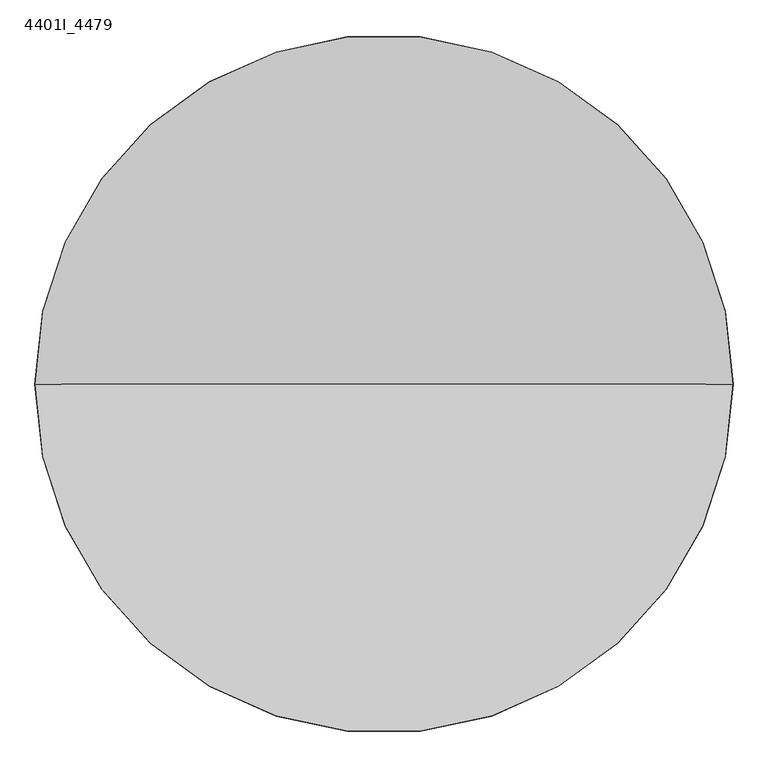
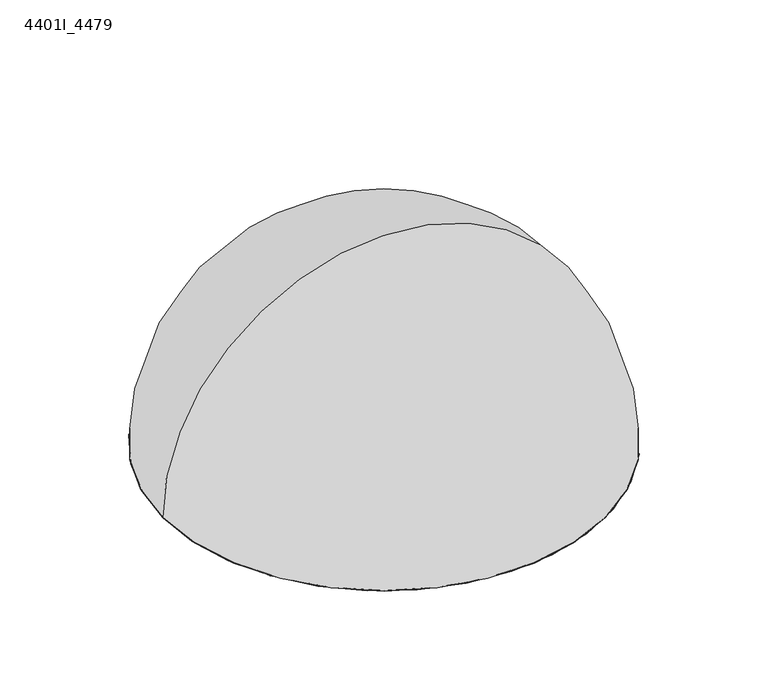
"""IFC4 building model written with IfcOpenShell, lengths in millimetres: alarm geometry, 4401I_Analog Smoke Detector : 4401I_4479."""

from ifc_helpers import new_model, si_unit, point, frame, origin, origin_with_axes, origin_2d, place, context, project, spatial, polyline, circle_curve, ellipse_curve, trimmed, segment, composite_curve, outline, extrude, source, transform, mapped, element, save
from ifc_brep_helpers import plane_surface, cylinder_surface, revolved_surface, advanced_brep


def alarm_4401i_4479_2d29e587(model_context):
    return source(origin(), model_context, "Body", "SolidModel", [
        advanced_brep(
        [(-79.7972229, 5.5486659, 14.485042), (-79.7972229, 5.5486659, 25.4), (-78.2027771, 5.5486659, 25.4), (-78.2027771, 5.5486659, 14.485042), (-79.7972229, 10.5486659, 14.485042), (-79.7972229, 10.5486659, 25.4), (-78.2027771, 10.5486659, 25.4), (-78.2027771, 10.5486659, 14.485042), (-79.7972229, 15.5486659, 14.485042), (-79.7972229, 15.5486659, 25.4), (-78.2027771, 15.5486659, 25.4), (-78.2027771, 15.5486659, 14.485042), (-84.7972229, 3.0470544, 14.485042), (-84.7972229, 3.0470544, 25.4), (-83.2027771, 3.0470544, 25.4), (-83.2027771, 3.0470544, 14.485042), (-85.4222229, 8.9861659, 14.485042), (-85.4222229, 8.9861659, 25.4), (-83.8277771, 8.9861659, 25.4), (-83.8277771, 8.9861659, 14.485042), (-88.9577568, 5.450632, 14.485042), (-88.9577568, 5.450632, 25.4), (-87.363311, 5.450632, 25.4), (-87.363311, 5.450632, 14.485042), (-83.5688125, 14.8836329, 14.485042), (-83.5688125, 14.8836329, 25.4), (-85.0671014, 14.3383003, 25.4), (-85.0671014, 14.3383003, 14.485042), (-89.6051979, 11.3985241, 14.485042), (-89.6051979, 11.3985241, 25.4), (-88.3837816, 12.4234141, 25.4), (-88.3837816, 12.4234141, 14.485042), (-92.0669282, 8.4647482, 14.485042), (-92.0669282, 8.4647482, 25.4), (-92.8641511, 7.0839177, 25.4), (-92.8641511, 7.0839177, 14.485042), (-94.450883, 1.9148862, 14.485042), (-94.450883, 1.9148862, 25.4), (-94.1740104, 3.4851087, 25.4), (-94.1740104, 3.4851087, 14.485042), (-94.1740104, -3.4851087, 14.485042), (-94.1740104, -3.4851087, 25.4), (-94.450883, -1.9148862, 25.4), (-94.450883, -1.9148862, 14.485042), (-89.5486659, 0.7972229, 14.485042), (-89.5486659, 0.7972229, 25.4), (-90.3458887, 0.0, 25.4), (-89.5486659, -0.7972229, 25.4), (-89.5486659, -0.7972229, 14.485042), (-90.3458887, 0.0, 14.485042), (-88.751443, 0.0, 14.485042), (-88.751443, 0.0, 25.4), (-88.534024, -4.5839177, 14.485042), (-88.534024, -4.5839177, 25.4), (-87.7368012, -5.9647482, 25.4), (-87.7368012, -5.9647482, 14.485042), (-83.4066742, -3.4647482, 14.485042), (-83.4066742, -3.4647482, 25.4), (-84.203897, -2.0839177, 25.4), (-84.203897, -2.0839177, 14.485042), (-73.796103, 2.0839177, 14.485042), (-73.796103, 2.0839177, 25.4), (-74.5933258, 3.4647482, 25.4), (-74.5933258, 3.4647482, 14.485042), (-73.0352518, 8.7368012, 14.485042), (-73.0352518, 8.7368012, 25.4), (-74.4160823, 9.534024, 25.4), (-74.4160823, 9.534024, 14.485042), (-72.9328986, 14.3383003, 14.485042), (-72.9328986, 14.3383003, 25.4), (-74.4311875, 14.8836329, 25.4), (-74.4311875, 14.8836329, 14.485042), (-69.6162184, 12.4234141, 14.485042), (-69.6162184, 12.4234141, 25.4), (-68.3948021, 11.3985241, 25.4), (-68.3948021, 11.3985241, 14.485042), (-65.9330718, 8.4647482, 14.485042), (-65.9330718, 8.4647482, 25.4), (-65.1358489, 7.0839177, 25.4), (-65.1358489, 7.0839177, 14.485042), (-69.465976, 4.5839177, 14.485042), (-69.465976, 4.5839177, 25.4), (-70.2631988, 5.9647482, 25.4), (-70.2631988, 5.9647482, 14.485042), (-63.549117, 1.9148862, 14.485042), (-63.549117, 1.9148862, 25.4), (-63.8259896, 3.4851087, 25.4), (-63.8259896, 3.4851087, 14.485042), (-63.8259896, -3.4851087, 14.485042), (-63.8259896, -3.4851087, 25.4), (-63.549117, -1.9148862, 25.4), (-63.549117, -1.9148862, 14.485042), (-68.4513341, 0.7972229, 14.485042), (-68.4513341, 0.7972229, 25.4), (-69.248557, 0.0, 25.4), (-68.4513341, -0.7972229, 25.4), (-68.4513341, -0.7972229, 14.485042), (-69.248557, 0.0, 14.485042), (-67.6541113, 0.0, 14.485042), (-67.6541113, 0.0, 25.4), (-74.5933258, -3.4647482, 14.485042), (-74.5933258, -3.4647482, 25.4), (-73.796103, -2.0839177, 25.4), (-73.796103, -2.0839177, 14.485042), (-78.2027771, -5.5486659, 14.485042), (-78.2027771, -5.5486659, 25.4), (-79.7972229, -5.5486659, 25.4), (-79.7972229, -5.5486659, 14.485042), (-78.2027771, -10.5486659, 14.485042), (-78.2027771, -10.5486659, 25.4), (-79.7972229, -10.5486659, 25.4), (-79.7972229, -10.5486659, 14.485042), (-74.4160823, -9.534024, 14.485042), (-74.4160823, -9.534024, 25.4), (-73.0352518, -8.7368012, 25.4), (-73.0352518, -8.7368012, 14.485042), (-70.2631988, -5.9647482, 14.485042), (-70.2631988, -5.9647482, 25.4), (-69.465976, -4.5839177, 25.4), (-69.465976, -4.5839177, 14.485042), (-65.9330718, -8.4647482, 14.485042), (-65.9330718, -8.4647482, 25.4), (-65.1358489, -7.0839177, 25.4), (-65.1358489, -7.0839177, 14.485042), (-68.3948021, -11.3985241, 14.485042), (-68.3948021, -11.3985241, 25.4), (-69.6162184, -12.4234141, 25.4), (-69.6162184, -12.4234141, 14.485042), (-72.9328986, -14.3383003, 14.485042), (-72.9328986, -14.3383003, 25.4), (-74.4311875, -14.8836329, 25.4), (-74.4311875, -14.8836329, 14.485042), (-79.7972229, -15.5486659, 14.485042), (-79.7972229, -15.5486659, 25.4), (-78.2027771, -15.5486659, 25.4), (-78.2027771, -15.5486659, 14.485042), (-83.5688125, -14.8836329, 14.485042), (-83.5688125, -14.8836329, 25.4), (-85.0671014, -14.3383003, 25.4), (-85.0671014, -14.3383003, 14.485042), (-88.3837816, -12.4234141, 14.485042), (-88.3837816, -12.4234141, 25.4), (-89.6051979, -11.3985241, 25.4), (-89.6051979, -11.3985241, 14.485042), (-83.5839177, -9.534024, 14.485042), (-83.5839177, -9.534024, 25.4), (-84.9647482, -8.7368012, 25.4), (-84.9647482, -8.7368012, 14.485042), (-92.8641511, -7.0839177, 14.485042), (-92.8641511, -7.0839177, 25.4), (-92.0669282, -8.4647482, 25.4), (-92.0669282, -8.4647482, 14.485042), (-108.6698498, 0.0, 16.3482569), (-49.3301502, 0.0, 16.3482569), (-49.0, 0.0, 15.6238085), (-109.0, 0.0, 15.6238085), (-106.6202954, 0.0, 18.1299074), (-51.3797046, 0.0, 18.1299074), (-106.2752145, 0.0, 18.8871183), (-51.7247855, 0.0, 18.8871183), (-106.2752145, 0.0, 22.8474655), (-51.7247855, 0.0, 22.8474655), (-109.0, 0.0, 14.485042), (-49.0, 0.0, 14.485042), (-79.0, 0.0, 14.485042), (-105.8495388, 0.0, 23.4500663), (-52.1504612, 0.0, 23.4500663), (-96.200061, 0.0, 25.4), (-61.799939, 0.0, 25.4), (-79.0, 0.0, 25.4)],
        [
            (0, 1),
            (1, 2, circle_curve(frame((-79.0, 5.5486659, 25.4), z_axis=(0.0, 0.0, 1.0), x_axis=(1.0, 0.0, 0.0)), 0.7972229)),
            (2, 3),
            (3, 0, circle_curve(frame((-79.0, 5.5486659, 14.485042), z_axis=(0.0, 0.0, -1.0), x_axis=(1.0, 0.0, 0.0)), 0.7972229)),
            (0, 3, circle_curve(frame((-79.0, 5.5486659, 14.485042), z_axis=(0.0, 0.0, -1.0), x_axis=(1.0, 0.0, 0.0)), 0.7972229)),
            (2, 1, circle_curve(frame((-79.0, 5.5486659, 25.4), z_axis=(0.0, 0.0, 1.0), x_axis=(1.0, 0.0, 0.0)), 0.7972229)),
            (4, 5),
            (5, 6, circle_curve(frame((-79.0, 10.5486659, 25.4), z_axis=(0.0, 0.0, 1.0), x_axis=(1.0, 0.0, 0.0)), 0.7972229)),
            (6, 7),
            (7, 4, circle_curve(frame((-79.0, 10.5486659, 14.485042), z_axis=(0.0, 0.0, -1.0), x_axis=(1.0, 0.0, 0.0)), 0.7972229)),
            (4, 7, circle_curve(frame((-79.0, 10.5486659, 14.485042), z_axis=(0.0, 0.0, -1.0), x_axis=(1.0, 0.0, 0.0)), 0.7972229)),
            (6, 5, circle_curve(frame((-79.0, 10.5486659, 25.4), z_axis=(0.0, 0.0, 1.0), x_axis=(1.0, 0.0, 0.0)), 0.7972229)),
            (8, 9),
            (9, 10, circle_curve(frame((-79.0, 15.5486659, 25.4), z_axis=(0.0, 0.0, 1.0), x_axis=(1.0, 0.0, 0.0)), 0.7972229)),
            (10, 11),
            (11, 8, circle_curve(frame((-79.0, 15.5486659, 14.485042), z_axis=(0.0, 0.0, -1.0), x_axis=(1.0, 0.0, 0.0)), 0.7972229)),
            (8, 11, circle_curve(frame((-79.0, 15.5486659, 14.485042), z_axis=(0.0, 0.0, -1.0), x_axis=(1.0, 0.0, 0.0)), 0.7972229)),
            (10, 9, circle_curve(frame((-79.0, 15.5486659, 25.4), z_axis=(0.0, 0.0, 1.0), x_axis=(1.0, 0.0, 0.0)), 0.7972229)),
            (12, 13),
            (13, 14, circle_curve(frame((-84.0, 3.0470544, 25.4), z_axis=(0.0, 0.0, 1.0), x_axis=(1.0, 0.0, 0.0)), 0.7972229)),
            (14, 15),
            (15, 12, circle_curve(frame((-84.0, 3.0470544, 14.485042), z_axis=(0.0, 0.0, -1.0), x_axis=(1.0, 0.0, 0.0)), 0.7972229)),
            (12, 15, circle_curve(frame((-84.0, 3.0470544, 14.485042), z_axis=(0.0, 0.0, -1.0), x_axis=(1.0, 0.0, 0.0)), 0.7972229)),
            (14, 13, circle_curve(frame((-84.0, 3.0470544, 25.4), z_axis=(0.0, 0.0, 1.0), x_axis=(1.0, 0.0, 0.0)), 0.7972229)),
            (16, 17),
            (17, 18, circle_curve(frame((-84.625, 8.9861659, 25.4), z_axis=(0.0, 0.0, 1.0), x_axis=(1.0, 0.0, 0.0)), 0.7972229)),
            (18, 19),
            (19, 16, circle_curve(frame((-84.625, 8.9861659, 14.485042), z_axis=(0.0, 0.0, -1.0), x_axis=(1.0, 0.0, 0.0)), 0.7972229)),
            (16, 19, circle_curve(frame((-84.625, 8.9861659, 14.485042), z_axis=(0.0, 0.0, -1.0), x_axis=(1.0, 0.0, 0.0)), 0.7972229)),
            (18, 17, circle_curve(frame((-84.625, 8.9861659, 25.4), z_axis=(0.0, 0.0, 1.0), x_axis=(1.0, 0.0, 0.0)), 0.7972229)),
            (20, 21),
            (21, 22, circle_curve(frame((-88.1605339, 5.450632, 25.4), z_axis=(0.0, 0.0, 1.0), x_axis=(1.0, 0.0, 0.0)), 0.7972229)),
            (22, 23),
            (23, 20, circle_curve(frame((-88.1605339, 5.450632, 14.485042), z_axis=(0.0, 0.0, -1.0), x_axis=(1.0, 0.0, 0.0)), 0.7972229)),
            (20, 23, circle_curve(frame((-88.1605339, 5.450632, 14.485042), z_axis=(0.0, 0.0, -1.0), x_axis=(1.0, 0.0, 0.0)), 0.7972229)),
            (22, 21, circle_curve(frame((-88.1605339, 5.450632, 25.4), z_axis=(0.0, 0.0, 1.0), x_axis=(1.0, 0.0, 0.0)), 0.7972229)),
            (24, 25),
            (25, 26, circle_curve(frame((-84.3179569, 14.6109666, 25.4), z_axis=(0.0, 0.0, 1.0), x_axis=(1.0, 0.0, 0.0)), 0.7972229)),
            (26, 27),
            (27, 24, circle_curve(frame((-84.3179569, 14.6109666, 14.485042), z_axis=(0.0, 0.0, -1.0), x_axis=(1.0, 0.0, 0.0)), 0.7972229)),
            (24, 27, circle_curve(frame((-84.3179569, 14.6109666, 14.485042), z_axis=(0.0, 0.0, -1.0), x_axis=(1.0, 0.0, 0.0)), 0.7972229)),
            (26, 25, circle_curve(frame((-84.3179569, 14.6109666, 25.4), z_axis=(0.0, 0.0, 1.0), x_axis=(1.0, 0.0, 0.0)), 0.7972229)),
            (28, 29),
            (29, 30, circle_curve(frame((-88.9944898, 11.9109691, 25.4), z_axis=(0.0, 0.0, 1.0), x_axis=(1.0, 0.0, 0.0)), 0.7972229)),
            (30, 31),
            (31, 28, circle_curve(frame((-88.9944898, 11.9109691, 14.485042), z_axis=(0.0, 0.0, -1.0), x_axis=(1.0, 0.0, 0.0)), 0.7972229)),
            (28, 31, circle_curve(frame((-88.9944898, 11.9109691, 14.485042), z_axis=(0.0, 0.0, -1.0), x_axis=(1.0, 0.0, 0.0)), 0.7972229)),
            (30, 29, circle_curve(frame((-88.9944898, 11.9109691, 25.4), z_axis=(0.0, 0.0, 1.0), x_axis=(1.0, 0.0, 0.0)), 0.7972229)),
            (32, 33),
            (33, 34, circle_curve(frame((-92.4655396, 7.7743329, 25.4), z_axis=(0.0, 0.0, 1.0), x_axis=(1.0, 0.0, 0.0)), 0.7972229)),
            (34, 35),
            (35, 32, circle_curve(frame((-92.4655396, 7.7743329, 14.485042), z_axis=(0.0, 0.0, -1.0), x_axis=(1.0, 0.0, 0.0)), 0.7972229)),
            (32, 35, circle_curve(frame((-92.4655396, 7.7743329, 14.485042), z_axis=(0.0, 0.0, -1.0), x_axis=(1.0, 0.0, 0.0)), 0.7972229)),
            (34, 33, circle_curve(frame((-92.4655396, 7.7743329, 25.4), z_axis=(0.0, 0.0, 1.0), x_axis=(1.0, 0.0, 0.0)), 0.7972229)),
            (36, 37),
            (37, 38, circle_curve(frame((-94.3124467, 2.6999975, 25.4), z_axis=(0.0, 0.0, 1.0), x_axis=(1.0, 0.0, 0.0)), 0.7972229)),
            (38, 39),
            (39, 36, circle_curve(frame((-94.3124467, 2.6999975, 14.485042), z_axis=(0.0, 0.0, -1.0), x_axis=(1.0, 0.0, 0.0)), 0.7972229)),
            (36, 39, circle_curve(frame((-94.3124467, 2.6999975, 14.485042), z_axis=(0.0, 0.0, -1.0), x_axis=(1.0, 0.0, 0.0)), 0.7972229)),
            (38, 37, circle_curve(frame((-94.3124467, 2.6999975, 25.4), z_axis=(0.0, 0.0, 1.0), x_axis=(1.0, 0.0, 0.0)), 0.7972229)),
            (40, 41),
            (41, 42, circle_curve(frame((-94.3124467, -2.6999975, 25.4), z_axis=(0.0, 0.0, 1.0), x_axis=(1.0, 0.0, 0.0)), 0.7972229)),
            (42, 43),
            (43, 40, circle_curve(frame((-94.3124467, -2.6999975, 14.485042), z_axis=(0.0, 0.0, -1.0), x_axis=(1.0, 0.0, 0.0)), 0.7972229)),
            (40, 43, circle_curve(frame((-94.3124467, -2.6999975, 14.485042), z_axis=(0.0, 0.0, -1.0), x_axis=(1.0, 0.0, 0.0)), 0.7972229)),
            (42, 41, circle_curve(frame((-94.3124467, -2.6999975, 25.4), z_axis=(0.0, 0.0, 1.0), x_axis=(1.0, 0.0, 0.0)), 0.7972229)),
            (44, 45),
            (45, 46, circle_curve(frame((-89.5486659, 0.0, 25.4), z_axis=(0.0, 0.0, 1.0), x_axis=(1.0, 0.0, 0.0)), 0.7972229)),
            (46, 47, circle_curve(frame((-89.5486659, 0.0, 25.4), z_axis=(0.0, 0.0, 1.0), x_axis=(1.0, 0.0, 0.0)), 0.7972229)),
            (47, 48),
            (48, 49, circle_curve(frame((-89.5486659, 0.0, 14.485042), z_axis=(0.0, 0.0, -1.0), x_axis=(1.0, 0.0, 0.0)), 0.7972229)),
            (49, 44, circle_curve(frame((-89.5486659, 0.0, 14.485042), z_axis=(0.0, 0.0, -1.0), x_axis=(1.0, 0.0, 0.0)), 0.7972229)),
            (44, 50, circle_curve(frame((-89.5486659, 0.0, 14.485042), z_axis=(0.0, 0.0, -1.0), x_axis=(1.0, 0.0, 0.0)), 0.7972229)),
            (50, 48, circle_curve(frame((-89.5486659, 0.0, 14.485042), z_axis=(0.0, 0.0, -1.0), x_axis=(1.0, 0.0, 0.0)), 0.7972229)),
            (47, 51, circle_curve(frame((-89.5486659, 0.0, 25.4), z_axis=(0.0, 0.0, 1.0), x_axis=(1.0, 0.0, 0.0)), 0.7972229)),
            (51, 45, circle_curve(frame((-89.5486659, 0.0, 25.4), z_axis=(0.0, 0.0, 1.0), x_axis=(1.0, 0.0, 0.0)), 0.7972229)),
            (52, 53),
            (53, 54, circle_curve(frame((-88.1354126, -5.2743329, 25.4), z_axis=(0.0, 0.0, 1.0), x_axis=(1.0, 0.0, 0.0)), 0.7972229)),
            (54, 55),
            (55, 52, circle_curve(frame((-88.1354126, -5.2743329, 14.485042), z_axis=(0.0, 0.0, -1.0), x_axis=(1.0, 0.0, 0.0)), 0.7972229)),
            (52, 55, circle_curve(frame((-88.1354126, -5.2743329, 14.485042), z_axis=(0.0, 0.0, -1.0), x_axis=(1.0, 0.0, 0.0)), 0.7972229)),
            (54, 53, circle_curve(frame((-88.1354126, -5.2743329, 25.4), z_axis=(0.0, 0.0, 1.0), x_axis=(1.0, 0.0, 0.0)), 0.7972229)),
            (56, 57),
            (57, 58, circle_curve(frame((-83.8052856, -2.7743329, 25.4), z_axis=(0.0, 0.0, 1.0), x_axis=(1.0, 0.0, 0.0)), 0.7972229)),
            (58, 59),
            (59, 56, circle_curve(frame((-83.8052856, -2.7743329, 14.485042), z_axis=(0.0, 0.0, -1.0), x_axis=(1.0, 0.0, 0.0)), 0.7972229)),
            (56, 59, circle_curve(frame((-83.8052856, -2.7743329, 14.485042), z_axis=(0.0, 0.0, -1.0), x_axis=(1.0, 0.0, 0.0)), 0.7972229)),
            (58, 57, circle_curve(frame((-83.8052856, -2.7743329, 25.4), z_axis=(0.0, 0.0, 1.0), x_axis=(1.0, 0.0, 0.0)), 0.7972229)),
            (60, 61),
            (61, 62, circle_curve(frame((-74.1947144, 2.7743329, 25.4), z_axis=(0.0, 0.0, 1.0), x_axis=(1.0, 0.0, 0.0)), 0.7972229)),
            (62, 63),
            (63, 60, circle_curve(frame((-74.1947144, 2.7743329, 14.485042), z_axis=(0.0, 0.0, -1.0), x_axis=(1.0, 0.0, 0.0)), 0.7972229)),
            (60, 63, circle_curve(frame((-74.1947144, 2.7743329, 14.485042), z_axis=(0.0, 0.0, -1.0), x_axis=(1.0, 0.0, 0.0)), 0.7972229)),
            (62, 61, circle_curve(frame((-74.1947144, 2.7743329, 25.4), z_axis=(0.0, 0.0, 1.0), x_axis=(1.0, 0.0, 0.0)), 0.7972229)),
            (64, 65),
            (65, 66, circle_curve(frame((-73.7256671, 9.1354126, 25.4), z_axis=(0.0, 0.0, 1.0), x_axis=(1.0, 0.0, 0.0)), 0.7972229)),
            (66, 67),
            (67, 64, circle_curve(frame((-73.7256671, 9.1354126, 14.485042), z_axis=(0.0, 0.0, -1.0), x_axis=(1.0, 0.0, 0.0)), 0.7972229)),
            (64, 67, circle_curve(frame((-73.7256671, 9.1354126, 14.485042), z_axis=(0.0, 0.0, -1.0), x_axis=(1.0, 0.0, 0.0)), 0.7972229)),
            (66, 65, circle_curve(frame((-73.7256671, 9.1354126, 25.4), z_axis=(0.0, 0.0, 1.0), x_axis=(1.0, 0.0, 0.0)), 0.7972229)),
            (68, 69),
            (69, 70, circle_curve(frame((-73.6820431, 14.6109666, 25.4), z_axis=(0.0, 0.0, 1.0), x_axis=(1.0, 0.0, 0.0)), 0.7972229)),
            (70, 71),
            (71, 68, circle_curve(frame((-73.6820431, 14.6109666, 14.485042), z_axis=(0.0, 0.0, -1.0), x_axis=(1.0, 0.0, 0.0)), 0.7972229)),
            (68, 71, circle_curve(frame((-73.6820431, 14.6109666, 14.485042), z_axis=(0.0, 0.0, -1.0), x_axis=(1.0, 0.0, 0.0)), 0.7972229)),
            (70, 69, circle_curve(frame((-73.6820431, 14.6109666, 25.4), z_axis=(0.0, 0.0, 1.0), x_axis=(1.0, 0.0, 0.0)), 0.7972229)),
            (72, 73),
            (73, 74, circle_curve(frame((-69.0055102, 11.9109691, 25.4), z_axis=(0.0, 0.0, 1.0), x_axis=(1.0, 0.0, 0.0)), 0.7972229)),
            (74, 75),
            (75, 72, circle_curve(frame((-69.0055102, 11.9109691, 14.485042), z_axis=(0.0, 0.0, -1.0), x_axis=(1.0, 0.0, 0.0)), 0.7972229)),
            (72, 75, circle_curve(frame((-69.0055102, 11.9109691, 14.485042), z_axis=(0.0, 0.0, -1.0), x_axis=(1.0, 0.0, 0.0)), 0.7972229)),
            (74, 73, circle_curve(frame((-69.0055102, 11.9109691, 25.4), z_axis=(0.0, 0.0, 1.0), x_axis=(1.0, 0.0, 0.0)), 0.7972229)),
            (76, 77),
            (77, 78, circle_curve(frame((-65.5344604, 7.7743329, 25.4), z_axis=(0.0, 0.0, 1.0), x_axis=(1.0, 0.0, 0.0)), 0.7972229)),
            (78, 79),
            (79, 76, circle_curve(frame((-65.5344604, 7.7743329, 14.485042), z_axis=(0.0, 0.0, -1.0), x_axis=(1.0, 0.0, 0.0)), 0.7972229)),
            (76, 79, circle_curve(frame((-65.5344604, 7.7743329, 14.485042), z_axis=(0.0, 0.0, -1.0), x_axis=(1.0, 0.0, 0.0)), 0.7972229)),
            (78, 77, circle_curve(frame((-65.5344604, 7.7743329, 25.4), z_axis=(0.0, 0.0, 1.0), x_axis=(1.0, 0.0, 0.0)), 0.7972229)),
            (80, 81),
            (81, 82, circle_curve(frame((-69.8645874, 5.2743329, 25.4), z_axis=(0.0, 0.0, 1.0), x_axis=(1.0, 0.0, 0.0)), 0.7972229)),
            (82, 83),
            (83, 80, circle_curve(frame((-69.8645874, 5.2743329, 14.485042), z_axis=(0.0, 0.0, -1.0), x_axis=(1.0, 0.0, 0.0)), 0.7972229)),
            (80, 83, circle_curve(frame((-69.8645874, 5.2743329, 14.485042), z_axis=(0.0, 0.0, -1.0), x_axis=(1.0, 0.0, 0.0)), 0.7972229)),
            (82, 81, circle_curve(frame((-69.8645874, 5.2743329, 25.4), z_axis=(0.0, 0.0, 1.0), x_axis=(1.0, 0.0, 0.0)), 0.7972229)),
            (84, 85),
            (85, 86, circle_curve(frame((-63.6875533, 2.6999975, 25.4), z_axis=(0.0, 0.0, 1.0), x_axis=(1.0, 0.0, 0.0)), 0.7972229)),
            (86, 87),
            (87, 84, circle_curve(frame((-63.6875533, 2.6999975, 14.485042), z_axis=(0.0, 0.0, -1.0), x_axis=(1.0, 0.0, 0.0)), 0.7972229)),
            (84, 87, circle_curve(frame((-63.6875533, 2.6999975, 14.485042), z_axis=(0.0, 0.0, -1.0), x_axis=(1.0, 0.0, 0.0)), 0.7972229)),
            (86, 85, circle_curve(frame((-63.6875533, 2.6999975, 25.4), z_axis=(0.0, 0.0, 1.0), x_axis=(1.0, 0.0, 0.0)), 0.7972229)),
            (88, 89),
            (89, 90, circle_curve(frame((-63.6875533, -2.6999975, 25.4), z_axis=(0.0, 0.0, 1.0), x_axis=(1.0, 0.0, 0.0)), 0.7972229)),
            (90, 91),
            (91, 88, circle_curve(frame((-63.6875533, -2.6999975, 14.485042), z_axis=(0.0, 0.0, -1.0), x_axis=(1.0, 0.0, 0.0)), 0.7972229)),
            (88, 91, circle_curve(frame((-63.6875533, -2.6999975, 14.485042), z_axis=(0.0, 0.0, -1.0), x_axis=(1.0, 0.0, 0.0)), 0.7972229)),
            (90, 89, circle_curve(frame((-63.6875533, -2.6999975, 25.4), z_axis=(0.0, 0.0, 1.0), x_axis=(1.0, 0.0, 0.0)), 0.7972229)),
            (92, 93),
            (93, 94, circle_curve(frame((-68.4513341, 0.0, 25.4), z_axis=(0.0, 0.0, 1.0), x_axis=(1.0, 0.0, 0.0)), 0.7972229)),
            (94, 95, circle_curve(frame((-68.4513341, 0.0, 25.4), z_axis=(0.0, 0.0, 1.0), x_axis=(1.0, 0.0, 0.0)), 0.7972229)),
            (95, 96),
            (96, 97, circle_curve(frame((-68.4513341, 0.0, 14.485042), z_axis=(0.0, 0.0, -1.0), x_axis=(1.0, 0.0, 0.0)), 0.7972229)),
            (97, 92, circle_curve(frame((-68.4513341, 0.0, 14.485042), z_axis=(0.0, 0.0, -1.0), x_axis=(1.0, 0.0, 0.0)), 0.7972229)),
            (92, 98, circle_curve(frame((-68.4513341, 0.0, 14.485042), z_axis=(0.0, 0.0, -1.0), x_axis=(1.0, 0.0, 0.0)), 0.7972229)),
            (98, 96, circle_curve(frame((-68.4513341, 0.0, 14.485042), z_axis=(0.0, 0.0, -1.0), x_axis=(1.0, 0.0, 0.0)), 0.7972229)),
            (95, 99, circle_curve(frame((-68.4513341, 0.0, 25.4), z_axis=(0.0, 0.0, 1.0), x_axis=(1.0, 0.0, 0.0)), 0.7972229)),
            (99, 93, circle_curve(frame((-68.4513341, 0.0, 25.4), z_axis=(0.0, 0.0, 1.0), x_axis=(1.0, 0.0, 0.0)), 0.7972229)),
            (100, 101),
            (101, 102, circle_curve(frame((-74.1947144, -2.7743329, 25.4), z_axis=(0.0, 0.0, 1.0), x_axis=(1.0, 0.0, 0.0)), 0.7972229)),
            (102, 103),
            (103, 100, circle_curve(frame((-74.1947144, -2.7743329, 14.485042), z_axis=(0.0, 0.0, -1.0), x_axis=(1.0, 0.0, 0.0)), 0.7972229)),
            (100, 103, circle_curve(frame((-74.1947144, -2.7743329, 14.485042), z_axis=(0.0, 0.0, -1.0), x_axis=(1.0, 0.0, 0.0)), 0.7972229)),
            (102, 101, circle_curve(frame((-74.1947144, -2.7743329, 25.4), z_axis=(0.0, 0.0, 1.0), x_axis=(1.0, 0.0, 0.0)), 0.7972229)),
            (104, 105),
            (105, 106, circle_curve(frame((-79.0, -5.5486659, 25.4), z_axis=(0.0, 0.0, 1.0), x_axis=(1.0, 0.0, 0.0)), 0.7972229)),
            (106, 107),
            (107, 104, circle_curve(frame((-79.0, -5.5486659, 14.485042), z_axis=(0.0, 0.0, -1.0), x_axis=(1.0, 0.0, 0.0)), 0.7972229)),
            (104, 107, circle_curve(frame((-79.0, -5.5486659, 14.485042), z_axis=(0.0, 0.0, -1.0), x_axis=(1.0, 0.0, 0.0)), 0.7972229)),
            (106, 105, circle_curve(frame((-79.0, -5.5486659, 25.4), z_axis=(0.0, 0.0, 1.0), x_axis=(1.0, 0.0, 0.0)), 0.7972229)),
            (108, 109),
            (109, 110, circle_curve(frame((-79.0, -10.5486659, 25.4), z_axis=(0.0, 0.0, 1.0), x_axis=(1.0, 0.0, 0.0)), 0.7972229)),
            (110, 111),
            (111, 108, circle_curve(frame((-79.0, -10.5486659, 14.485042), z_axis=(0.0, 0.0, -1.0), x_axis=(1.0, 0.0, 0.0)), 0.7972229)),
            (108, 111, circle_curve(frame((-79.0, -10.5486659, 14.485042), z_axis=(0.0, 0.0, -1.0), x_axis=(1.0, 0.0, 0.0)), 0.7972229)),
            (110, 109, circle_curve(frame((-79.0, -10.5486659, 25.4), z_axis=(0.0, 0.0, 1.0), x_axis=(1.0, 0.0, 0.0)), 0.7972229)),
            (112, 113),
            (113, 114, circle_curve(frame((-73.7256671, -9.1354126, 25.4), z_axis=(0.0, 0.0, 1.0), x_axis=(1.0, 0.0, 0.0)), 0.7972229)),
            (114, 115),
            (115, 112, circle_curve(frame((-73.7256671, -9.1354126, 14.485042), z_axis=(0.0, 0.0, -1.0), x_axis=(1.0, 0.0, 0.0)), 0.7972229)),
            (112, 115, circle_curve(frame((-73.7256671, -9.1354126, 14.485042), z_axis=(0.0, 0.0, -1.0), x_axis=(1.0, 0.0, 0.0)), 0.7972229)),
            (114, 113, circle_curve(frame((-73.7256671, -9.1354126, 25.4), z_axis=(0.0, 0.0, 1.0), x_axis=(1.0, 0.0, 0.0)), 0.7972229)),
            (116, 117),
            (117, 118, circle_curve(frame((-69.8645874, -5.2743329, 25.4), z_axis=(0.0, 0.0, 1.0), x_axis=(1.0, 0.0, 0.0)), 0.7972229)),
            (118, 119),
            (119, 116, circle_curve(frame((-69.8645874, -5.2743329, 14.485042), z_axis=(0.0, 0.0, -1.0), x_axis=(1.0, 0.0, 0.0)), 0.7972229)),
            (116, 119, circle_curve(frame((-69.8645874, -5.2743329, 14.485042), z_axis=(0.0, 0.0, -1.0), x_axis=(1.0, 0.0, 0.0)), 0.7972229)),
            (118, 117, circle_curve(frame((-69.8645874, -5.2743329, 25.4), z_axis=(0.0, 0.0, 1.0), x_axis=(1.0, 0.0, 0.0)), 0.7972229)),
            (120, 121),
            (121, 122, circle_curve(frame((-65.5344604, -7.7743329, 25.4), z_axis=(0.0, 0.0, 1.0), x_axis=(1.0, 0.0, 0.0)), 0.7972229)),
            (122, 123),
            (123, 120, circle_curve(frame((-65.5344604, -7.7743329, 14.485042), z_axis=(0.0, 0.0, -1.0), x_axis=(1.0, 0.0, 0.0)), 0.7972229)),
            (120, 123, circle_curve(frame((-65.5344604, -7.7743329, 14.485042), z_axis=(0.0, 0.0, -1.0), x_axis=(1.0, 0.0, 0.0)), 0.7972229)),
            (122, 121, circle_curve(frame((-65.5344604, -7.7743329, 25.4), z_axis=(0.0, 0.0, 1.0), x_axis=(1.0, 0.0, 0.0)), 0.7972229)),
            (124, 125),
            (125, 126, circle_curve(frame((-69.0055102, -11.9109691, 25.4), z_axis=(0.0, 0.0, 1.0), x_axis=(1.0, 0.0, 0.0)), 0.7972229)),
            (126, 127),
            (127, 124, circle_curve(frame((-69.0055102, -11.9109691, 14.485042), z_axis=(0.0, 0.0, -1.0), x_axis=(1.0, 0.0, 0.0)), 0.7972229)),
            (124, 127, circle_curve(frame((-69.0055102, -11.9109691, 14.485042), z_axis=(0.0, 0.0, -1.0), x_axis=(1.0, 0.0, 0.0)), 0.7972229)),
            (126, 125, circle_curve(frame((-69.0055102, -11.9109691, 25.4), z_axis=(0.0, 0.0, 1.0), x_axis=(1.0, 0.0, 0.0)), 0.7972229)),
            (128, 129),
            (129, 130, circle_curve(frame((-73.6820431, -14.6109666, 25.4), z_axis=(0.0, 0.0, 1.0), x_axis=(1.0, 0.0, 0.0)), 0.7972229)),
            (130, 131),
            (131, 128, circle_curve(frame((-73.6820431, -14.6109666, 14.485042), z_axis=(0.0, 0.0, -1.0), x_axis=(1.0, 0.0, 0.0)), 0.7972229)),
            (128, 131, circle_curve(frame((-73.6820431, -14.6109666, 14.485042), z_axis=(0.0, 0.0, -1.0), x_axis=(1.0, 0.0, 0.0)), 0.7972229)),
            (130, 129, circle_curve(frame((-73.6820431, -14.6109666, 25.4), z_axis=(0.0, 0.0, 1.0), x_axis=(1.0, 0.0, 0.0)), 0.7972229)),
            (132, 133),
            (133, 134, circle_curve(frame((-79.0, -15.5486659, 25.4), z_axis=(0.0, 0.0, 1.0), x_axis=(1.0, 0.0, 0.0)), 0.7972229)),
            (134, 135),
            (135, 132, circle_curve(frame((-79.0, -15.5486659, 14.485042), z_axis=(0.0, 0.0, -1.0), x_axis=(1.0, 0.0, 0.0)), 0.7972229)),
            (132, 135, circle_curve(frame((-79.0, -15.5486659, 14.485042), z_axis=(0.0, 0.0, -1.0), x_axis=(1.0, 0.0, 0.0)), 0.7972229)),
            (134, 133, circle_curve(frame((-79.0, -15.5486659, 25.4), z_axis=(0.0, 0.0, 1.0), x_axis=(1.0, 0.0, 0.0)), 0.7972229)),
            (136, 137),
            (137, 138, circle_curve(frame((-84.3179569, -14.6109666, 25.4), z_axis=(0.0, 0.0, 1.0), x_axis=(1.0, 0.0, 0.0)), 0.7972229)),
            (138, 139),
            (139, 136, circle_curve(frame((-84.3179569, -14.6109666, 14.485042), z_axis=(0.0, 0.0, -1.0), x_axis=(1.0, 0.0, 0.0)), 0.7972229)),
            (136, 139, circle_curve(frame((-84.3179569, -14.6109666, 14.485042), z_axis=(0.0, 0.0, -1.0), x_axis=(1.0, 0.0, 0.0)), 0.7972229)),
            (138, 137, circle_curve(frame((-84.3179569, -14.6109666, 25.4), z_axis=(0.0, 0.0, 1.0), x_axis=(1.0, 0.0, 0.0)), 0.7972229)),
            (140, 141),
            (141, 142, circle_curve(frame((-88.9944898, -11.9109691, 25.4), z_axis=(0.0, 0.0, 1.0), x_axis=(1.0, 0.0, 0.0)), 0.7972229)),
            (142, 143),
            (143, 140, circle_curve(frame((-88.9944898, -11.9109691, 14.485042), z_axis=(0.0, 0.0, -1.0), x_axis=(1.0, 0.0, 0.0)), 0.7972229)),
            (140, 143, circle_curve(frame((-88.9944898, -11.9109691, 14.485042), z_axis=(0.0, 0.0, -1.0), x_axis=(1.0, 0.0, 0.0)), 0.7972229)),
            (142, 141, circle_curve(frame((-88.9944898, -11.9109691, 25.4), z_axis=(0.0, 0.0, 1.0), x_axis=(1.0, 0.0, 0.0)), 0.7972229)),
            (144, 145),
            (145, 146, circle_curve(frame((-84.2743329, -9.1354126, 25.4), z_axis=(0.0, 0.0, 1.0), x_axis=(1.0, 0.0, 0.0)), 0.7972229)),
            (146, 147),
            (147, 144, circle_curve(frame((-84.2743329, -9.1354126, 14.485042), z_axis=(0.0, 0.0, -1.0), x_axis=(1.0, 0.0, 0.0)), 0.7972229)),
            (144, 147, circle_curve(frame((-84.2743329, -9.1354126, 14.485042), z_axis=(0.0, 0.0, -1.0), x_axis=(1.0, 0.0, 0.0)), 0.7972229)),
            (146, 145, circle_curve(frame((-84.2743329, -9.1354126, 25.4), z_axis=(0.0, 0.0, 1.0), x_axis=(1.0, 0.0, 0.0)), 0.7972229)),
            (148, 149),
            (149, 150, circle_curve(frame((-92.4655396, -7.7743329, 25.4), z_axis=(0.0, 0.0, 1.0), x_axis=(1.0, 0.0, 0.0)), 0.7972229)),
            (150, 151),
            (151, 148, circle_curve(frame((-92.4655396, -7.7743329, 14.485042), z_axis=(0.0, 0.0, -1.0), x_axis=(1.0, 0.0, 0.0)), 0.7972229)),
            (148, 151, circle_curve(frame((-92.4655396, -7.7743329, 14.485042), z_axis=(0.0, 0.0, -1.0), x_axis=(1.0, 0.0, 0.0)), 0.7972229)),
            (150, 149, circle_curve(frame((-92.4655396, -7.7743329, 25.4), z_axis=(0.0, 0.0, 1.0), x_axis=(1.0, 0.0, 0.0)), 0.7972229)),
            (152, 153, circle_curve(frame((-79.0, 0.0, 16.3482569), z_axis=(0.0, 0.0, -1.0), x_axis=(1.0, 0.0, 0.0)), 29.6698498)),
            (153, 154, circle_curve(frame((-49.9599036, 0.0, 15.6238085), z_axis=(0.0, 1.0, 0.0), x_axis=(-1.0, 0.0, 0.0)), 0.9599036)),
            (154, 155, circle_curve(frame((-79.0, 0.0, 15.6238085), z_axis=(0.0, 0.0, 1.0), x_axis=(1.0, 0.0, 0.0)), 30.0)),
            (155, 152, circle_curve(frame((-108.0400964, 0.0, 15.6238085), z_axis=(0.0, 1.0, 0.0), x_axis=(1.0, 0.0, 0.0)), 0.9599036)),
            (153, 152, circle_curve(frame((-79.0, 0.0, 16.3482569), z_axis=(0.0, 0.0, -1.0), x_axis=(1.0, 0.0, 0.0)), 29.6698498)),
            (155, 154, circle_curve(frame((-79.0, 0.0, 15.6238085), z_axis=(0.0, 0.0, 1.0), x_axis=(1.0, 0.0, 0.0)), 30.0)),
            (152, 156),
            (156, 157, circle_curve(frame((-79.0, 0.0, 18.1299074), z_axis=(0.0, 0.0, -1.0), x_axis=(1.0, 0.0, 0.0)), 27.6202954)),
            (157, 153),
            (157, 156, circle_curve(frame((-79.0, 0.0, 18.1299074), z_axis=(0.0, 0.0, -1.0), x_axis=(1.0, 0.0, 0.0)), 27.6202954)),
            (156, 158, circle_curve(frame((-107.2785287, 0.0, 18.8871183), z_axis=(0.0, -1.0, 0.0), x_axis=(1.0, 0.0, 0.0)), 1.0033142)),
            (158, 159, circle_curve(frame((-79.0, 0.0, 18.8871183), z_axis=(0.0, 0.0, -1.0), x_axis=(1.0, 0.0, 0.0)), 27.2752145)),
            (159, 157, circle_curve(frame((-50.7214713, 0.0, 18.8871183), z_axis=(0.0, -1.0, 0.0), x_axis=(-1.0, 0.0, 0.0)), 1.0033142)),
            (159, 158, circle_curve(frame((-79.0, 0.0, 18.8871183), z_axis=(0.0, 0.0, -1.0), x_axis=(1.0, 0.0, 0.0)), 27.2752145)),
            (158, 160),
            (160, 161, circle_curve(frame((-79.0, 0.0, 22.8474655), z_axis=(0.0, 0.0, -1.0), x_axis=(1.0, 0.0, 0.0)), 27.2752145)),
            (161, 159),
            (161, 160, circle_curve(frame((-79.0, 0.0, 22.8474655), z_axis=(0.0, 0.0, -1.0), x_axis=(1.0, 0.0, 0.0)), 27.2752145)),
            (162, 163, circle_curve(frame((-79.0, 0.0, 14.485042), z_axis=(0.0, 0.0, -1.0), x_axis=(1.0, 0.0, 0.0)), 30.0)),
            (163, 98),
            (97, 164),
            (164, 50),
            (49, 162),
            (163, 162, circle_curve(frame((-79.0, 0.0, 14.485042), z_axis=(0.0, 0.0, -1.0), x_axis=(1.0, 0.0, 0.0)), 30.0)),
            (154, 163),
            (162, 155),
            (160, 165, circle_curve(frame((-105.6358457, 0.0, 22.8474655), z_axis=(0.0, 1.0, 0.0), x_axis=(1.0, 0.0, 0.0)), 0.6393688)),
            (165, 166, circle_curve(frame((-79.0, 0.0, 23.4500663), z_axis=(0.0, 0.0, -1.0), x_axis=(1.0, 0.0, 0.0)), 26.8495388)),
            (166, 161, circle_curve(frame((-52.3641543, 0.0, 22.8474655), z_axis=(0.0, 1.0, 0.0), x_axis=(-1.0, 0.0, 0.0)), 0.6393688)),
            (166, 165, circle_curve(frame((-79.0, 0.0, 23.4500663), z_axis=(0.0, 0.0, -1.0), x_axis=(1.0, 0.0, 0.0)), 26.8495388)),
            (165, 167, circle_curve(frame((-94.1752974, 0.0, -9.470542), z_axis=(0.0, 1.0, 0.0), x_axis=(1.0, 0.0, 0.0)), 34.9292766)),
            (167, 168, circle_curve(frame((-79.0, 0.0, 25.4), z_axis=(0.0, 0.0, -1.0), x_axis=(1.0, 0.0, 0.0)), 17.200061)),
            (168, 166, circle_curve(frame((-63.8247026, 0.0, -9.470542), z_axis=(0.0, 1.0, 0.0), x_axis=(-1.0, 0.0, 0.0)), 34.9292766)),
            (168, 167, circle_curve(frame((-79.0, 0.0, 25.4), z_axis=(0.0, 0.0, -1.0), x_axis=(1.0, 0.0, 0.0)), 17.200061)),
            (167, 46),
            (51, 169),
            (169, 94),
            (99, 168),
        ],
        [
            revolved_surface(polyline([(-78.2027771, 5.5486659, 25.4), (-78.2027771, 5.5486659, 14.485042)]), (-79.0, 5.5486659, 12.4608845), (0.0, 0.0, 1.0)),
            revolved_surface(polyline([(-78.2027771, 10.5486659, 25.4), (-78.2027771, 10.5486659, 14.485042)]), (-79.0, 10.5486659, 0.0), (0.0, 0.0, 1.0)),
            revolved_surface(polyline([(-78.2027771, 15.5486659, 25.4), (-78.2027771, 15.5486659, 14.485042)]), (-79.0, 15.5486659, 0.0), (0.0, 0.0, 1.0)),
            revolved_surface(polyline([(-83.2027771, 3.0470544, 25.4), (-83.2027771, 3.0470544, 14.485042)]), (-84.0, 3.0470544, 0.0), (0.0, 0.0, 1.0)),
            revolved_surface(polyline([(-83.8277771, 8.9861659, 25.4), (-83.8277771, 8.9861659, 14.485042)]), (-84.625, 8.9861659, 0.0), (0.0, 0.0, 1.0)),
            revolved_surface(polyline([(-87.36331100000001, 5.450632, 25.4), (-87.36331100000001, 5.450632, 14.485042)]), (-88.1605339, 5.450632, 0.0), (0.0, 0.0, 1.0)),
            revolved_surface(polyline([(-83.520734, 14.6109666, 25.4), (-83.520734, 14.6109666, 14.485042)]), (-84.3179569, 14.6109666, 0.0), (0.0, 0.0, 1.0)),
            revolved_surface(polyline([(-88.1972669, 11.9109691, 25.4), (-88.1972669, 11.9109691, 14.485042)]), (-88.9944898, 11.9109691, 0.0), (0.0, 0.0, 1.0)),
            revolved_surface(polyline([(-91.6683167, 7.7743329, 25.4), (-91.6683167, 7.7743329, 14.485042)]), (-92.4655396, 7.7743329, 0.0), (0.0, 0.0, 1.0)),
            revolved_surface(polyline([(-93.5152238, 2.6999975, 25.4), (-93.5152238, 2.6999975, 14.485042)]), (-94.3124467, 2.6999975, 0.0), (0.0, 0.0, 1.0)),
            revolved_surface(polyline([(-93.5152238, -2.6999975, 25.4), (-93.5152238, -2.6999975, 14.485042)]), (-94.3124467, -2.6999975, 0.0), (0.0, 0.0, 1.0)),
            revolved_surface(polyline([(-88.75144300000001, 0.0, 25.4), (-88.75144300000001, 0.0, 14.485042)]), (-89.5486659, 0.0, 0.0), (0.0, 0.0, 1.0)),
            revolved_surface(polyline([(-87.3381897, -5.2743329, 25.4), (-87.3381897, -5.2743329, 14.485042)]), (-88.1354126, -5.2743329, 0.0), (0.0, 0.0, 1.0)),
            revolved_surface(polyline([(-83.00806270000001, -2.7743329, 25.4), (-83.00806270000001, -2.7743329, 14.485042)]), (-83.8052856, -2.7743329, 0.0), (0.0, 0.0, 1.0)),
            revolved_surface(polyline([(-73.3974915, 2.7743329, 25.4), (-73.3974915, 2.7743329, 14.485042)]), (-74.1947144, 2.7743329, 0.0), (0.0, 0.0, 1.0)),
            revolved_surface(polyline([(-72.9284442, 9.1354126, 25.4), (-72.9284442, 9.1354126, 14.485042)]), (-73.7256671, 9.1354126, 0.0), (0.0, 0.0, 1.0)),
            revolved_surface(polyline([(-72.88482020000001, 14.6109666, 25.4), (-72.88482020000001, 14.6109666, 14.485042)]), (-73.6820431, 14.6109666, 0.0), (0.0, 0.0, 1.0)),
            revolved_surface(polyline([(-68.20828730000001, 11.9109691, 25.4), (-68.20828730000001, 11.9109691, 14.485042)]), (-69.0055102, 11.9109691, 0.0), (0.0, 0.0, 1.0)),
            revolved_surface(polyline([(-64.7372375, 7.7743329, 25.4), (-64.7372375, 7.7743329, 14.485042)]), (-65.5344604, 7.7743329, 0.0), (0.0, 0.0, 1.0)),
            revolved_surface(polyline([(-69.06736450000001, 5.2743329, 25.4), (-69.06736450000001, 5.2743329, 14.485042)]), (-69.8645874, 5.2743329, 0.0), (0.0, 0.0, 1.0)),
            revolved_surface(polyline([(-62.890330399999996, 2.6999975, 25.4), (-62.890330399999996, 2.6999975, 14.485042)]), (-63.6875533, 2.6999975, 0.0), (0.0, 0.0, 1.0)),
            revolved_surface(polyline([(-62.890330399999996, -2.6999975, 25.4), (-62.890330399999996, -2.6999975, 14.485042)]), (-63.6875533, -2.6999975, 0.0), (0.0, 0.0, 1.0)),
            revolved_surface(polyline([(-67.6541112, 0.0, 25.4), (-67.6541112, 0.0, 14.485042)]), (-68.4513341, 0.0, 0.0), (0.0, 0.0, 1.0)),
            revolved_surface(polyline([(-73.3974915, -2.7743329, 25.4), (-73.3974915, -2.7743329, 14.485042)]), (-74.1947144, -2.7743329, 0.0), (0.0, 0.0, 1.0)),
            revolved_surface(polyline([(-78.2027771, -5.5486659, 25.4), (-78.2027771, -5.5486659, 14.485042)]), (-79.0, -5.5486659, 0.0), (0.0, 0.0, 1.0)),
            revolved_surface(polyline([(-78.2027771, -10.5486659, 25.4), (-78.2027771, -10.5486659, 14.485042)]), (-79.0, -10.5486659, 0.0), (0.0, 0.0, 1.0)),
            revolved_surface(polyline([(-72.9284442, -9.1354126, 25.4), (-72.9284442, -9.1354126, 14.485042)]), (-73.7256671, -9.1354126, 0.0), (0.0, 0.0, 1.0)),
            revolved_surface(polyline([(-69.06736450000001, -5.2743329, 25.4), (-69.06736450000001, -5.2743329, 14.485042)]), (-69.8645874, -5.2743329, 0.0), (0.0, 0.0, 1.0)),
            revolved_surface(polyline([(-64.7372375, -7.7743329, 25.4), (-64.7372375, -7.7743329, 14.485042)]), (-65.5344604, -7.7743329, 0.0), (0.0, 0.0, 1.0)),
            revolved_surface(polyline([(-68.20828730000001, -11.9109691, 25.4), (-68.20828730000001, -11.9109691, 14.485042)]), (-69.0055102, -11.9109691, 0.0), (0.0, 0.0, 1.0)),
            revolved_surface(polyline([(-72.88482020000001, -14.6109666, 25.4), (-72.88482020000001, -14.6109666, 14.485042)]), (-73.6820431, -14.6109666, 0.0), (0.0, 0.0, 1.0)),
            revolved_surface(polyline([(-78.2027771, -15.5486659, 25.4), (-78.2027771, -15.5486659, 14.485042)]), (-79.0, -15.5486659, 0.0), (0.0, 0.0, 1.0)),
            revolved_surface(polyline([(-83.520734, -14.6109666, 25.4), (-83.520734, -14.6109666, 14.485042)]), (-84.3179569, -14.6109666, 0.0), (0.0, 0.0, 1.0)),
            revolved_surface(polyline([(-88.1972669, -11.9109691, 25.4), (-88.1972669, -11.9109691, 14.485042)]), (-88.9944898, -11.9109691, 0.0), (0.0, 0.0, 1.0)),
            revolved_surface(polyline([(-83.47711000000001, -9.1354126, 25.4), (-83.47711000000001, -9.1354126, 14.485042)]), (-84.2743329, -9.1354126, 0.0), (0.0, 0.0, 1.0)),
            revolved_surface(polyline([(-91.6683167, -7.7743329, 25.4), (-91.6683167, -7.7743329, 14.485042)]), (-92.4655396, -7.7743329, 0.0), (0.0, 0.0, 1.0)),
            revolved_surface(trimmed(ellipse_curve(frame((-49.9599036, 0.0, 15.6238085), z_axis=(0.0, -1.0, 0.0), x_axis=(-1.0, 0.0, 0.0)), 0.9599036, 0.9599036), [point((-49.0, 0.0, 15.6238085))], [point((-49.3301502, 0.0, 16.3482569))], True, "CARTESIAN"), (-79.0, 0.0, -304.8), (0.0, 0.0, 1.0)),
            revolved_surface(polyline([(-49.3301502, 0.0, 16.3482569), (-51.3797046, 0.0, 18.1299074)]), (-79.0, 0.0, -304.8), (0.0, 0.0, 1.0)),
            revolved_surface(trimmed(ellipse_curve(frame((-50.7214713, 0.0, 18.8871183), z_axis=(0.0, 1.0, 0.0), x_axis=(-1.0, 0.0, 0.0)), 1.0033142, 1.0033142), [point((-51.3797046, 0.0, 18.1299074))], [point((-51.7247855, 0.0, 18.8871183))], True, "CARTESIAN"), (-79.0, 0.0, -304.8), (0.0, 0.0, 1.0)),
            cylinder_surface(frame((-79.0, 0.0, -304.8), z_axis=(0.0, 0.0, 1.0), x_axis=(1.0, 0.0, 0.0)), 27.2752145),
            plane_surface(frame((-79.0, 0.0, 14.485042), z_axis=(0.0, 0.0, -1.0), x_axis=(1.0, 0.0, 0.0))),
            cylinder_surface(frame((-79.0, 0.0, -304.8), z_axis=(0.0, 0.0, 1.0), x_axis=(1.0, 0.0, 0.0)), 30.0),
            revolved_surface(trimmed(ellipse_curve(frame((-52.3641543, 0.0, 22.8474655), z_axis=(0.0, -1.0, 0.0), x_axis=(-1.0, 0.0, 0.0)), 0.6393688, 0.6393688), [point((-51.7247855, 0.0, 22.8474655))], [point((-52.1504612, 0.0, 23.4500663))], True, "CARTESIAN"), (-79.0, 0.0, -304.8), (0.0, 0.0, 1.0)),
            revolved_surface(trimmed(ellipse_curve(frame((-63.8247026, 0.0, -9.470542), z_axis=(0.0, -1.0, 0.0), x_axis=(-1.0, 0.0, 0.0)), 34.9292766, 34.9292766), [point((-52.1504612, 0.0, 23.4500663))], [point((-61.799939, 0.0, 25.4))], True, "CARTESIAN"), (-79.0, 0.0, -304.8), (0.0, 0.0, 1.0)),
            plane_surface(frame((-79.0, 0.0, 25.4), z_axis=(0.0, 0.0, 1.0), x_axis=(1.0, 0.0, 0.0))),
        ],
        [
            (0, [[1, 2, 3, 4]]),
            (0, [[-1, 5, -3, 6]]),
            (1, [[7, 8, 9, 10]]),
            (1, [[-7, 11, -9, 12]]),
            (2, [[13, 14, 15, 16]]),
            (2, [[-13, 17, -15, 18]]),
            (3, [[19, 20, 21, 22]]),
            (3, [[-19, 23, -21, 24]]),
            (4, [[25, 26, 27, 28]]),
            (4, [[-25, 29, -27, 30]]),
            (5, [[31, 32, 33, 34]]),
            (5, [[-31, 35, -33, 36]]),
            (6, [[37, 38, 39, 40]]),
            (6, [[-37, 41, -39, 42]]),
            (7, [[43, 44, 45, 46]]),
            (7, [[-43, 47, -45, 48]]),
            (8, [[49, 50, 51, 52]]),
            (8, [[-49, 53, -51, 54]]),
            (9, [[55, 56, 57, 58]]),
            (9, [[-55, 59, -57, 60]]),
            (10, [[61, 62, 63, 64]]),
            (10, [[-61, 65, -63, 66]]),
            (11, [[67, 68, 69, 70, 71, 72]]),
            (11, [[-67, 73, 74, -70, 75, 76]]),
            (12, [[77, 78, 79, 80]]),
            (12, [[-77, 81, -79, 82]]),
            (13, [[83, 84, 85, 86]]),
            (13, [[-83, 87, -85, 88]]),
            (14, [[89, 90, 91, 92]]),
            (14, [[-89, 93, -91, 94]]),
            (15, [[95, 96, 97, 98]]),
            (15, [[-95, 99, -97, 100]]),
            (16, [[101, 102, 103, 104]]),
            (16, [[-101, 105, -103, 106]]),
            (17, [[107, 108, 109, 110]]),
            (17, [[-107, 111, -109, 112]]),
            (18, [[113, 114, 115, 116]]),
            (18, [[-113, 117, -115, 118]]),
            (19, [[119, 120, 121, 122]]),
            (19, [[-119, 123, -121, 124]]),
            (20, [[125, 126, 127, 128]]),
            (20, [[-125, 129, -127, 130]]),
            (21, [[131, 132, 133, 134]]),
            (21, [[-131, 135, -133, 136]]),
            (22, [[137, 138, 139, 140, 141, 142]]),
            (22, [[-137, 143, 144, -140, 145, 146]]),
            (23, [[147, 148, 149, 150]]),
            (23, [[-147, 151, -149, 152]]),
            (24, [[153, 154, 155, 156]]),
            (24, [[-153, 157, -155, 158]]),
            (25, [[159, 160, 161, 162]]),
            (25, [[-159, 163, -161, 164]]),
            (26, [[165, 166, 167, 168]]),
            (26, [[-165, 169, -167, 170]]),
            (27, [[171, 172, 173, 174]]),
            (27, [[-171, 175, -173, 176]]),
            (28, [[177, 178, 179, 180]]),
            (28, [[-177, 181, -179, 182]]),
            (29, [[183, 184, 185, 186]]),
            (29, [[-183, 187, -185, 188]]),
            (30, [[189, 190, 191, 192]]),
            (30, [[-189, 193, -191, 194]]),
            (31, [[195, 196, 197, 198]]),
            (31, [[-195, 199, -197, 200]]),
            (32, [[201, 202, 203, 204]]),
            (32, [[-201, 205, -203, 206]]),
            (33, [[207, 208, 209, 210]]),
            (33, [[-207, 211, -209, 212]]),
            (34, [[213, 214, 215, 216]]),
            (34, [[-213, 217, -215, 218]]),
            (35, [[219, 220, 221, 222]]),
            (35, [[-219, 223, -221, 224]]),
            (36, [[225, 226, 227, 228]]),
            (36, [[-226, 229, -228, 230]]),
            (37, [[-225, 231, 232, 233]]),
            (37, [[-229, -233, 234, -231]]),
            (38, [[-232, 235, 236, 237]]),
            (38, [[-234, -237, 238, -235]]),
            (39, [[-236, 239, 240, 241]]),
            (39, [[-238, -241, 242, -239]]),
            (40, [[243, 244, -143, -142, 245, 246, -73, -72, 247], [-4, -5], [-10, -11], [-16, -17], [-22, -23], [-28, -29], [-34, -35], [-40, -41], [-46, -47], [-52, -53], [-58, -59], [-92, -93], [-98, -99], [-104, -105], [-110, -111], [-116, -117], [-122, -123], [-128, -129]]),
            (40, [[248, -247, -71, -74, -246, -245, -141, -144, -244], [-64, -65], [-80, -81], [-86, -87], [-134, -135], [-150, -151], [-156, -157], [-162, -163], [-168, -169], [-174, -175], [-180, -181], [-186, -187], [-192, -193], [-198, -199], [-204, -205], [-210, -211], [-216, -217], [-222, -223]]),
            (41, [[-227, 249, -243, 250]]),
            (41, [[-230, -250, -248, -249]]),
            (42, [[-240, 251, 252, 253]]),
            (42, [[-242, -253, 254, -251]]),
            (43, [[-252, 255, 256, 257]]),
            (43, [[-254, -257, 258, -255]]),
            (44, [[-256, 259, -68, -76, 260, 261, -138, -146, 262], [-2, -6], [-8, -12], [-14, -18], [-20, -24], [-26, -30], [-32, -36], [-38, -42], [-44, -48], [-50, -54], [-56, -60], [-90, -94], [-96, -100], [-102, -106], [-108, -112], [-114, -118], [-120, -124], [-126, -130]]),
            (44, [[-258, -262, -145, -139, -261, -260, -75, -69, -259], [-62, -66], [-78, -82], [-84, -88], [-132, -136], [-148, -152], [-154, -158], [-160, -164], [-166, -170], [-172, -176], [-178, -182], [-184, -188], [-190, -194], [-196, -200], [-202, -206], [-208, -212], [-214, -218], [-220, -224]]),
        ],
    ),
        extrude(outline(composite_curve([segment(trimmed(circle_curve(origin_2d(), 500.0), [point((-500.0, 0.0))], [point((500.0, 0.0))], False, "CARTESIAN"), True, "CONTINUOUS"), segment(trimmed(circle_curve(origin_2d(), 500.0), [point((500.0, 0.0))], [point((-500.0, 0.0))], False, "CARTESIAN"), True, "CONTINUOUS")], self_intersect=False)), origin_with_axes(), (0.0, 0.0, 1.0), 1.0),
        advanced_brep(
        [(500.0, 0.0, 0.0), (-500.0, 0.0, 0.0), (0.0, 0.0, 500.0), (0.0, 0.0, 0.0)],
        [
            (0, 1, circle_curve(frame((0.0, 0.0, 0.0), z_axis=(0.0, 0.0, 1.0), x_axis=(-1.0, 0.0, 0.0)), 500.0)),
            (1, 2, circle_curve(frame((0.0, 0.0, 0.0), z_axis=(0.0, 1.0, 0.0), x_axis=(1.0, 0.0, 0.0)), 500.0)),
            (2, 0, circle_curve(frame((0.0, 0.0, 0.0), z_axis=(0.0, 1.0, 0.0), x_axis=(-1.0, 0.0, 0.0)), 500.0)),
            (1, 0, circle_curve(frame((0.0, 0.0, 0.0), z_axis=(0.0, 0.0, 1.0), x_axis=(-1.0, 0.0, 0.0)), 500.0)),
            (3, 1),
            (0, 3),
        ],
        [
            revolved_surface(trimmed(ellipse_curve(frame((0.0, 0.0, 0.0), z_axis=(0.0, -1.0, 0.0), x_axis=(1.0, 0.0, 0.0)), 500.0, 500.0), [point((0.0, 0.0, 500.0))], [point((-500.0, 0.0, 0.0))], True, "CARTESIAN"), (0.0, 0.0, 2609.0581012), (0.0, 0.0, -1.0)),
            plane_surface(frame((0.0, 0.0, 0.0), z_axis=(0.0, 0.0, -1.0), x_axis=(-1.0, 0.0, 0.0))),
        ],
        [
            (0, [[1, 2, 3]]),
            (0, [[4, -3, -2]]),
            (1, [[5, -1, 6]]),
            (1, [[-6, -4, -5]]),
        ],
    ),
    ])


if __name__ == "__main__":
    model = new_model("IFC4")
    model_context = context("Model", 3, world=origin())
    ifc_project = project(units=[si_unit("LENGTHUNIT", "METRE", prefix="MILLI")], contexts=[model_context])
    site = spatial("IfcSite", under=ifc_project)
    building = spatial("IfcBuilding", under=site)
    placement = place(None, origin())
    alarm_4401i_4479_shape = alarm_4401i_4479_2d29e587(model_context)
    element("IfcAlarm", 1, ObjectType="4401I_Analog Smoke Detector : 4401I_4479", at=placement, inside=building, context=model_context, shape_type="MappedRepresentation", body=[
        mapped(alarm_4401i_4479_shape, transform((0.0, 0.0, 0.0), x_axis=(1.0, 0.0, 0.0), y_axis=(0.0, 1.0, 0.0), z_axis=(0.0, 0.0, 1.0))),
    ])
    save(model, "model.ifc")
